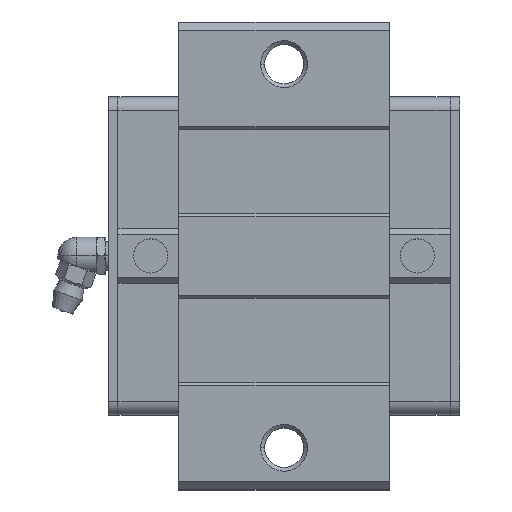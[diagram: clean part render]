
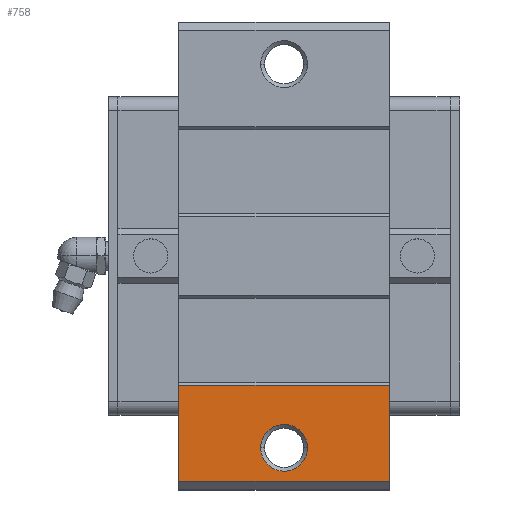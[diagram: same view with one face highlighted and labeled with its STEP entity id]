
A CAD part, top view. The second image highlights one B-rep face of the part: STEP entity #758.
In plain terms, the highlighted planar face has unit normal (0, 0, 1).
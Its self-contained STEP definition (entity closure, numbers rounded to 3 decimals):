
#215=CARTESIAN_POINT('POINT18',(32.5,-41.,37.));
#216=VERTEX_POINT('VERTEX18',#215);
#224=CARTESIAN_POINT('POINT19',(42.5,-41.,37.));
#225=VERTEX_POINT('VERTEX19',#224);
#232=CARTESIAN_POINT('POS26',(37.5,-41.,37.));
#233=DIRECTION('DIR39',(0.,0.,-1.));
#234=DIRECTION('DIR40',(1.,0.,0.));
#235=AXIS2_PLACEMENT_3D('AXIS14',#232,#233,#234);
#236=CIRCLE('ELLIPSE9',#235,5.);
#237=EDGE_CURVE('EDGE26',#216,#225,#236,.T.);
#248=EDGE_CURVE('EDGE27',#225,#216,#236,.T.);
#693=CARTESIAN_POINT('POINT49',(60.,-48.2,37.));
#694=VERTEX_POINT('VERTEX49',#693);
#701=CARTESIAN_POINT('POINT50',(15.,-48.2,37.));
#702=VERTEX_POINT('VERTEX50',#701);
#703=CARTESIAN_POINT('POS80',(15.,-48.2,37.));
#704=DIRECTION('DIR115',(1.,0.,0.));
#705=VECTOR('VEC45',#704,1.);
#706=LINE('STRAIGHT45',#703,#705);
#707=EDGE_CURVE('EDGE71',#702,#694,#706,.T.);
#724=ORIENTED_EDGE('COEDGE114',*,*,#248,.T.);
#725=ORIENTED_EDGE('COEDGE115',*,*,#237,.T.);
#726=EDGE_LOOP('NONE',(#724,#725));
#727=FACE_BOUND('LOOP1',#726,.T.);
#728=CARTESIAN_POINT('POINT51',(60.,-27.65,37.));
#729=VERTEX_POINT('VERTEX51',#728);
#730=CARTESIAN_POINT('POS83',(60.,-48.2,37.));
#731=DIRECTION('DIR119',(0.,1.,0.));
#732=VECTOR('VEC47',#731,1.);
#733=LINE('STRAIGHT47',#730,#732);
#734=EDGE_CURVE('EDGE73',#694,#729,#733,.T.);
#735=ORIENTED_EDGE('COEDGE116',*,*,#734,.T.);
#736=CARTESIAN_POINT('POINT52',(15.,-27.65,37.));
#737=VERTEX_POINT('VERTEX52',#736);
#738=CARTESIAN_POINT('POS84',(15.,-27.65,37.));
#739=DIRECTION('DIR120',(1.,0.,0.));
#740=VECTOR('VEC48',#739,1.);
#741=LINE('STRAIGHT48',#738,#740);
#742=EDGE_CURVE('EDGE74',#737,#729,#741,.T.);
#743=ORIENTED_EDGE('COEDGE117',*,*,#742,.F.);
#744=CARTESIAN_POINT('POS85',(15.,-48.2,37.));
#745=DIRECTION('DIR121',(0.,1.,0.));
#746=VECTOR('VEC49',#745,1.);
#747=LINE('STRAIGHT49',#744,#746);
#748=EDGE_CURVE('EDGE75',#702,#737,#747,.T.);
#749=ORIENTED_EDGE('COEDGE118',*,*,#748,.F.);
#750=ORIENTED_EDGE('COEDGE119',*,*,#707,.T.);
#751=EDGE_LOOP('NONE',(#735,#743,#749,#750));
#752=FACE_BOUND('LOOP1',#751,.T.);
#753=CARTESIAN_POINT('POS86',(15.,-48.2,37.));
#754=DIRECTION('DIR122',(0.,0.,1.));
#755=DIRECTION('DIR123',(1.,0.,0.));
#756=AXIS2_PLACEMENT_3D('AXIS37',#753,#754,#755);
#757=PLANE('PLANE13',#756);
#758=ADVANCED_FACE('FACE25',(#727,#752),#757,.T.);
